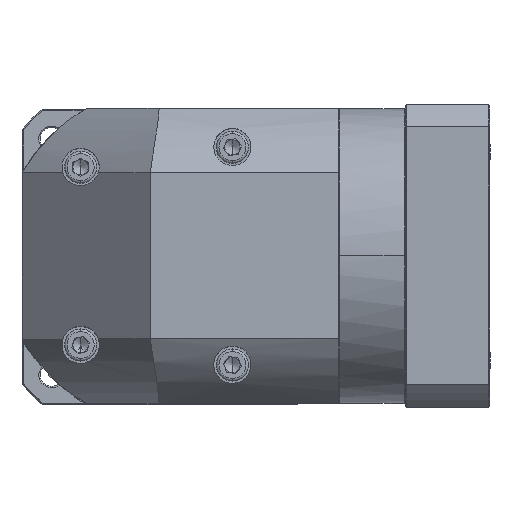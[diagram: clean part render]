
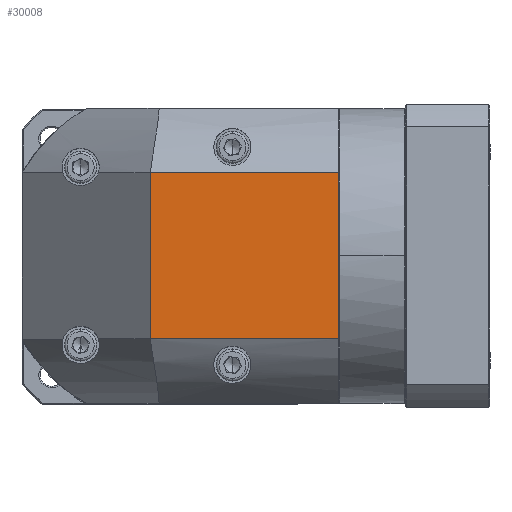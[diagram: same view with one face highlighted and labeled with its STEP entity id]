
A CAD part, top view. The second image highlights one B-rep face of the part: STEP entity #30008.
In plain terms, the highlighted planar face has unit normal (0, 0, 1).
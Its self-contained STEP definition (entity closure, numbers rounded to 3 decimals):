
#401 = EDGE_LOOP ( 'NONE', ( #10782, #94240, #58000, #21394 ) ) ;
#2927 = VERTEX_POINT ( 'NONE', #119416 ) ;
#5864 = VERTEX_POINT ( 'NONE', #20193 ) ;
#7978 = DIRECTION ( 'NONE',  ( 0., 0., -1. ) ) ;
#8603 = CARTESIAN_POINT ( 'NONE',  ( 40.715, 127.334, 73.117 ) ) ;
#10782 = ORIENTED_EDGE ( 'NONE', *, *, #54952, .F. ) ;
#18816 = CARTESIAN_POINT ( 'NONE',  ( 40.715, 102.234, 73.117 ) ) ;
#20193 = CARTESIAN_POINT ( 'NONE',  ( 40.715, 37.434, 73.117 ) ) ;
#21394 = ORIENTED_EDGE ( 'NONE', *, *, #116767, .F. ) ;
#30008 = ADVANCED_FACE ( 'NONE', ( #65578 ), #130160, .F. ) ;
#30879 = AXIS2_PLACEMENT_3D ( 'NONE', #37110, #7978, #108289 ) ;
#33136 = VECTOR ( 'NONE', #47397, 1000. ) ;
#37110 = CARTESIAN_POINT ( 'NONE',  ( 48.215, 69.834, 73.117 ) ) ;
#39885 = DIRECTION ( 'NONE',  ( 0., 1., 0. ) ) ;
#47397 = DIRECTION ( 'NONE',  ( 1., 0., 0. ) ) ;
#50606 = LINE ( 'NONE', #101333, #74618 ) ;
#54578 = VERTEX_POINT ( 'NONE', #106337 ) ;
#54952 = EDGE_CURVE ( 'NONE', #95235, #54578, #71368, .T. ) ;
#58000 = ORIENTED_EDGE ( 'NONE', *, *, #65047, .F. ) ;
#59478 = DIRECTION ( 'NONE',  ( -1., 0., 0. ) ) ;
#65047 = EDGE_CURVE ( 'NONE', #2927, #5864, #50606, .T. ) ;
#65578 = FACE_OUTER_BOUND ( 'NONE', #401, .T. ) ;
#70750 = VECTOR ( 'NONE', #96314, 1000. ) ;
#71368 = LINE ( 'NONE', #104912, #33136 ) ;
#74618 = VECTOR ( 'NONE', #59478, 1000. ) ;
#76046 = LINE ( 'NONE', #8603, #122239 ) ;
#85175 = CARTESIAN_POINT ( 'NONE',  ( 114.115, 127.334, 73.117 ) ) ;
#94240 = ORIENTED_EDGE ( 'NONE', *, *, #99913, .F. ) ;
#95235 = VERTEX_POINT ( 'NONE', #18816 ) ;
#96314 = DIRECTION ( 'NONE',  ( 0., -1., 0. ) ) ;
#99913 = EDGE_CURVE ( 'NONE', #5864, #95235, #76046, .T. ) ;
#101333 = CARTESIAN_POINT ( 'NONE',  ( -9.285, 37.434, 73.117 ) ) ;
#104912 = CARTESIAN_POINT ( 'NONE',  ( -9.285, 102.234, 73.117 ) ) ;
#106337 = CARTESIAN_POINT ( 'NONE',  ( 114.115, 102.234, 73.117 ) ) ;
#108289 = DIRECTION ( 'NONE',  ( 0., -1., 0. ) ) ;
#112077 = LINE ( 'NONE', #85175, #70750 ) ;
#116767 = EDGE_CURVE ( 'NONE', #54578, #2927, #112077, .T. ) ;
#119416 = CARTESIAN_POINT ( 'NONE',  ( 114.115, 37.434, 73.117 ) ) ;
#122239 = VECTOR ( 'NONE', #39885, 1000. ) ;
#130160 = PLANE ( 'NONE',  #30879 ) ;
